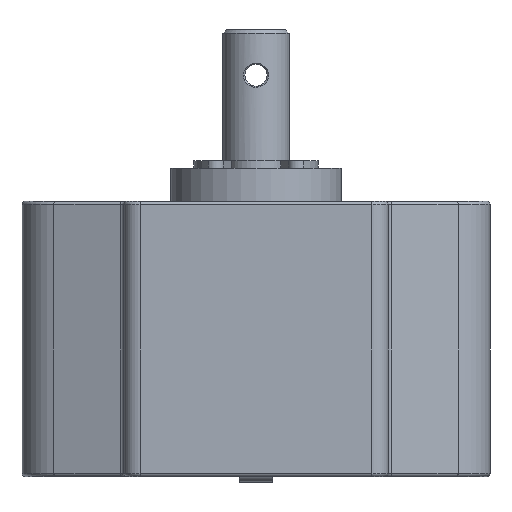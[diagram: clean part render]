
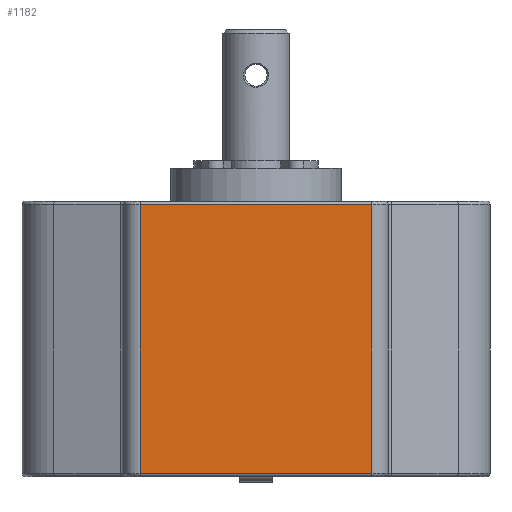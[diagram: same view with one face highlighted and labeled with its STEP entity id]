
A CAD part, front view. The second image highlights one B-rep face of the part: STEP entity #1182.
In plain terms, the highlighted planar face has unit normal (0, -1, 0).
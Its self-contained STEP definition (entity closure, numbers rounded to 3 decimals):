
#220 = ORIENTED_EDGE ( 'NONE', *, *, #14578, .T. ) ;
#298 = CARTESIAN_POINT ( 'NONE',  ( 10.5, -13., -27.7 ) ) ;
#1182 = ADVANCED_FACE ( 'NONE', ( #2281 ), #7644, .T. ) ;
#1510 = CARTESIAN_POINT ( 'NONE',  ( -10.5, -13., -27.7 ) ) ;
#1587 = EDGE_CURVE ( 'NONE', #12512, #14514, #15421, .T. ) ;
#2154 = CARTESIAN_POINT ( 'NONE',  ( -10.5, -13., -28. ) ) ;
#2281 = FACE_OUTER_BOUND ( 'NONE', #5849, .T. ) ;
#2533 = CARTESIAN_POINT ( 'NONE',  ( -12., -13., -28. ) ) ;
#2675 = VECTOR ( 'NONE', #8565, 1000. ) ;
#2843 = LINE ( 'NONE', #9702, #2675 ) ;
#2983 = CARTESIAN_POINT ( 'NONE',  ( -10.5, -13., -3.3 ) ) ;
#3502 = VECTOR ( 'NONE', #8570, 1000. ) ;
#4145 = VERTEX_POINT ( 'NONE', #16757 ) ;
#4455 = ORIENTED_EDGE ( 'NONE', *, *, #5381, .T. ) ;
#5381 = EDGE_CURVE ( 'NONE', #4145, #12512, #2843, .T. ) ;
#5389 = DIRECTION ( 'NONE',  ( 0., 0., 1. ) ) ;
#5644 = VECTOR ( 'NONE', #9675, 1000. ) ;
#5750 = ORIENTED_EDGE ( 'NONE', *, *, #1587, .T. ) ;
#5849 = EDGE_LOOP ( 'NONE', ( #6488, #4455, #5750, #220 ) ) ;
#6488 = ORIENTED_EDGE ( 'NONE', *, *, #9746, .T. ) ;
#7644 = PLANE ( 'NONE',  #14451 ) ;
#8565 = DIRECTION ( 'NONE',  ( -1., 0., 0. ) ) ;
#8570 = DIRECTION ( 'NONE',  ( 0., 0., -1. ) ) ;
#9224 = DIRECTION ( 'NONE',  ( 0., -1., 0. ) ) ;
#9675 = DIRECTION ( 'NONE',  ( 1., 0., 0. ) ) ;
#9702 = CARTESIAN_POINT ( 'NONE',  ( -10.5, -13., -3.3 ) ) ;
#9746 = EDGE_CURVE ( 'NONE', #12136, #4145, #14877, .T. ) ;
#10923 = CARTESIAN_POINT ( 'NONE',  ( 10.5, -13., -28. ) ) ;
#11269 = CARTESIAN_POINT ( 'NONE',  ( 10.5, -13., -27.7 ) ) ;
#12136 = VERTEX_POINT ( 'NONE', #298 ) ;
#12512 = VERTEX_POINT ( 'NONE', #2983 ) ;
#14451 = AXIS2_PLACEMENT_3D ( 'NONE', #2533, #9224, #14584 ) ;
#14514 = VERTEX_POINT ( 'NONE', #1510 ) ;
#14578 = EDGE_CURVE ( 'NONE', #14514, #12136, #15125, .T. ) ;
#14584 = DIRECTION ( 'NONE',  ( 0., 0., -1. ) ) ;
#14877 = LINE ( 'NONE', #10923, #15180 ) ;
#15125 = LINE ( 'NONE', #11269, #5644 ) ;
#15180 = VECTOR ( 'NONE', #5389, 1000. ) ;
#15421 = LINE ( 'NONE', #2154, #3502 ) ;
#16757 = CARTESIAN_POINT ( 'NONE',  ( 10.5, -13., -3.3 ) ) ;
